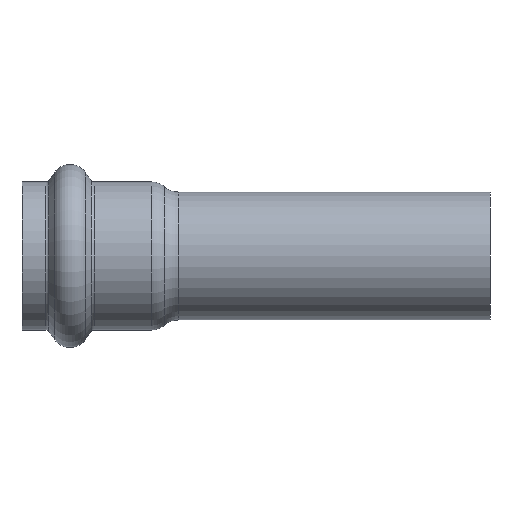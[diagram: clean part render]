
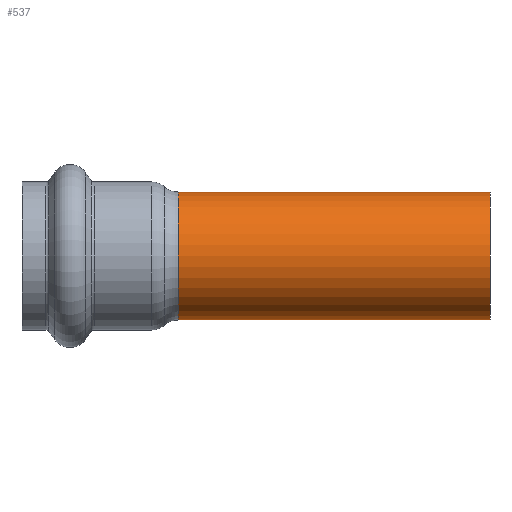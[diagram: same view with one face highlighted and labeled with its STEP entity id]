
A CAD part, front view. The second image highlights one B-rep face of the part: STEP entity #537.
In plain terms, the highlighted cylindrical face has radius 13.335 mm (diameter 26.67 mm), a full revolution.
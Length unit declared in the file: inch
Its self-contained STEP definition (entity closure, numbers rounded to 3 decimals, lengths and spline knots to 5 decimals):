
#50=CYLINDRICAL_SURFACE('',#610,0.525);
#58=LINE('',#972,#68);
#68=VECTOR('',#765,0.525);
#87=FACE_OUTER_BOUND('',#109,.T.);
#109=EDGE_LOOP('',(#397,#398,#399,#400,#401,#402,#403));
#153=CIRCLE('',#607,0.525);
#154=CIRCLE('',#608,0.525);
#155=CIRCLE('',#609,0.525);
#156=CIRCLE('',#611,0.525);
#157=CIRCLE('',#612,0.525);
#218=VERTEX_POINT('',#960);
#219=VERTEX_POINT('',#962);
#220=VERTEX_POINT('',#964);
#221=VERTEX_POINT('',#968);
#222=VERTEX_POINT('',#969);
#286=EDGE_CURVE('',#219,#218,#153,.T.);
#287=EDGE_CURVE('',#220,#219,#154,.T.);
#288=EDGE_CURVE('',#218,#220,#155,.T.);
#289=EDGE_CURVE('',#221,#222,#156,.T.);
#290=EDGE_CURVE('',#222,#221,#157,.T.);
#291=EDGE_CURVE('',#222,#220,#58,.T.);
#397=ORIENTED_EDGE('',*,*,#289,.F.);
#398=ORIENTED_EDGE('',*,*,#290,.F.);
#399=ORIENTED_EDGE('',*,*,#291,.T.);
#400=ORIENTED_EDGE('',*,*,#287,.T.);
#401=ORIENTED_EDGE('',*,*,#286,.T.);
#402=ORIENTED_EDGE('',*,*,#288,.T.);
#403=ORIENTED_EDGE('',*,*,#291,.F.);
#537=ADVANCED_FACE('',(#87),#50,.T.);
#607=AXIS2_PLACEMENT_3D('',#963,#753,#754);
#608=AXIS2_PLACEMENT_3D('',#965,#755,#756);
#609=AXIS2_PLACEMENT_3D('',#966,#757,#758);
#610=AXIS2_PLACEMENT_3D('',#967,#759,#760);
#611=AXIS2_PLACEMENT_3D('',#970,#761,#762);
#612=AXIS2_PLACEMENT_3D('',#971,#763,#764);
#753=DIRECTION('center_axis',(1.,0.,0.));
#754=DIRECTION('ref_axis',(0.,1.,0.));
#755=DIRECTION('center_axis',(1.,0.,0.));
#756=DIRECTION('ref_axis',(0.,1.,0.));
#757=DIRECTION('center_axis',(1.,0.,0.));
#758=DIRECTION('ref_axis',(0.,1.,0.));
#759=DIRECTION('center_axis',(1.,0.,0.));
#760=DIRECTION('ref_axis',(0.,1.,0.));
#761=DIRECTION('center_axis',(1.,0.,0.));
#762=DIRECTION('ref_axis',(0.,1.,0.));
#763=DIRECTION('center_axis',(1.,0.,0.));
#764=DIRECTION('ref_axis',(0.,1.,0.));
#765=DIRECTION('',(-1.,0.,0.));
#960=CARTESIAN_POINT('',(-0.63628,0.,0.525));
#962=CARTESIAN_POINT('',(-0.63628,0.525,0.));
#963=CARTESIAN_POINT('Origin',(-0.63628,0.,
0.));
#964=CARTESIAN_POINT('',(-0.63628,-0.525,0.));
#965=CARTESIAN_POINT('Origin',(-0.63628,0.,
0.));
#966=CARTESIAN_POINT('Origin',(-0.63628,0.,
0.));
#967=CARTESIAN_POINT('Origin',(0.64186,0.,
0.));
#968=CARTESIAN_POINT('',(1.92,0.525,0.));
#969=CARTESIAN_POINT('',(1.92,-0.525,0.));
#970=CARTESIAN_POINT('Origin',(1.92,0.,0.));
#971=CARTESIAN_POINT('Origin',(1.92,0.,0.));
#972=CARTESIAN_POINT('',(0.64186,-0.525,0.));
